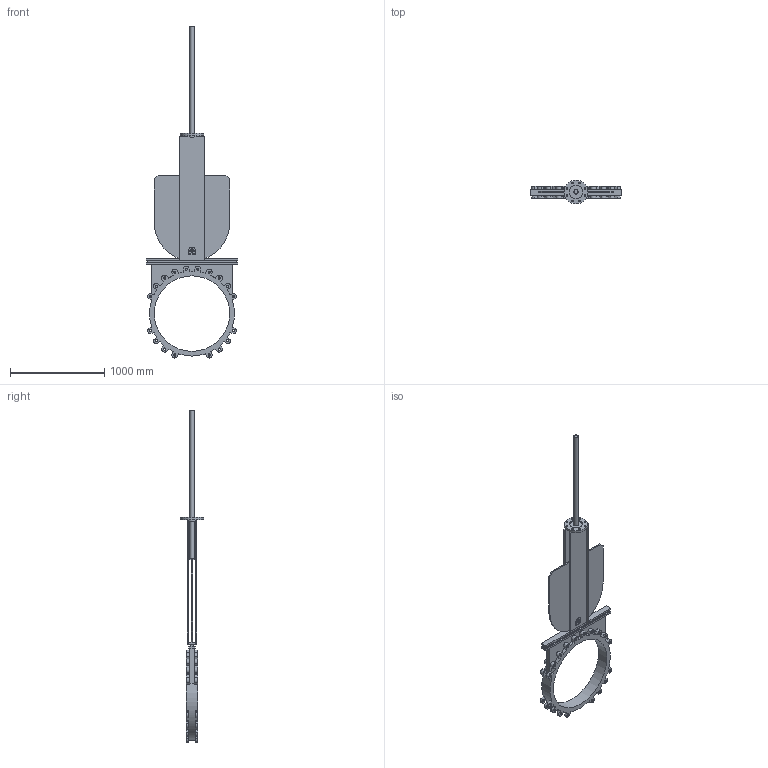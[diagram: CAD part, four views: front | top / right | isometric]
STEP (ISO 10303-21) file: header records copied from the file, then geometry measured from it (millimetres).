
FILE_DESCRIPTION(('STEP AP203'), '1');
FILE_NAME('K21GVA_DN800', '', ('UNSPECIFIED'), ('UNSPECIFIED'), 'ASCON STEP Converter 1.6', 'ASCON Math Kernel', '');
FILE_SCHEMA(('CONFIG_CONTROL_DESIGN'));
Length unit declared in the file: millimetre
Bounding box: 975 x 250 x 3521.17 mm (x, y, z)
Volume: 44119707.1 mm3; surface area: 5100060.2 mm2
Topology: 1 solids, 1 shells, 373 faces, 1065 edges, 703 vertices
Faces by surface type: plane 184, cylinder 168, cone 21
Full cylindrical faces by diameter (mm): 18 x8, 23.752 x36, 46 x2, 80 x1, 140 x1, 250 x1, 800 x1, 901 x1
Entity records: 14882 total; most frequent: DIRECTION 2140, CARTESIAN_POINT 2030, ORIENTED_EDGE 1946, EDGE_CURVE 973, AXIS2_PLACEMENT_3D 793, VERTEX_POINT 683, LINE 554, VECTOR 554
